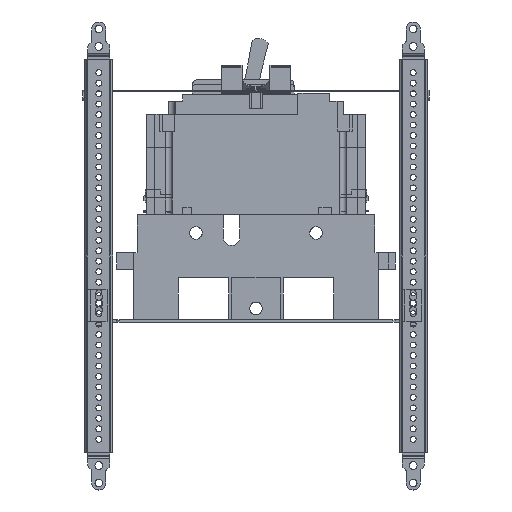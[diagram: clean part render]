
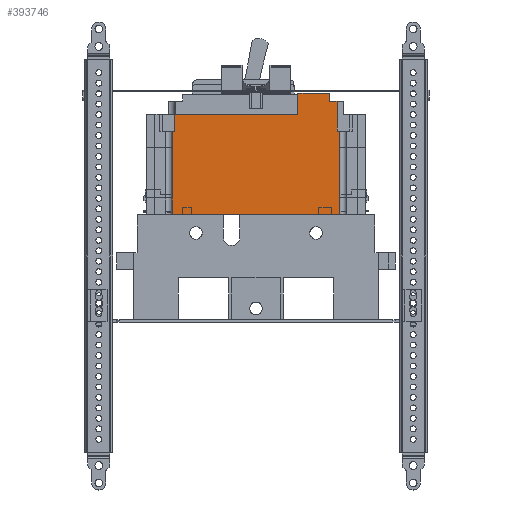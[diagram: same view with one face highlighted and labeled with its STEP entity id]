
A CAD part, left-side view. The second image highlights one B-rep face of the part: STEP entity #393746.
In plain terms, the highlighted planar face has unit normal (-1, 0, 0).
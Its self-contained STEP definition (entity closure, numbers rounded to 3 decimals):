
#384756=CARTESIAN_POINT(' ',(-266.811,61.043,81.204));
#384757=VERTEX_POINT(' ',#384756);
#384771=CARTESIAN_POINT(' ',(-266.811,-26.984,81.204));
#384776=DIRECTION(' ',(0.,1.,0.));
#384781=VECTOR(' ',#384776,1.);
#384786=LINE('',#384771,#384781);
#384791=CARTESIAN_POINT(' ',(-266.811,-26.984,81.204));
#384792=VERTEX_POINT(' ',#384791);
#384796=EDGE_CURVE(' ',#384792,#384757,#384786,.T.);
#385826=CARTESIAN_POINT(' ',(-266.811,-53.177,9.353));
#385827=VERTEX_POINT(' ',#385826);
#385841=CARTESIAN_POINT(' ',(-266.811,-53.177,9.353));
#385846=DIRECTION(' ',(0.,1.,0.));
#385851=VECTOR(' ',#385846,1.);
#385856=LINE('',#385841,#385851);
#385861=CARTESIAN_POINT(' ',(-266.811,59.243,9.353));
#385862=VERTEX_POINT(' ',#385861);
#385866=EDGE_CURVE(' ',#385827,#385862,#385856,.T.);
#393186=CARTESIAN_POINT(' ',(-266.811,61.043,68.904));
#393187=VERTEX_POINT(' ',#393186);
#393201=CARTESIAN_POINT(' ',(-266.811,61.043,81.204));
#393206=DIRECTION(' ',(0.,0.,-1.));
#393211=VECTOR(' ',#393206,1.);
#393216=LINE('',#393201,#393211);
#393221=EDGE_CURVE(' ',#384757,#393187,#393216,.T.);
#393251=DIRECTION(' ',(-1.,0.,0.));
#393256=CARTESIAN_POINT(' ',(-266.811,-56.879,9.353));
#393261=DIRECTION(' ',(0.,-0.,1.));
#393266=AXIS2_PLACEMENT_3D(' ',#393256,#393251,#393261);
#393271=PLANE('NONE',#393266);
#393276=CARTESIAN_POINT(' ',(-266.811,-56.879,69.284));
#393281=DIRECTION(' ',(0.,0.,-1.));
#393286=VECTOR(' ',#393281,1.);
#393291=LINE('',#393276,#393286);
#393296=CARTESIAN_POINT(' ',(-266.811,-56.879,69.284));
#393297=VERTEX_POINT(' ',#393296);
#393301=CARTESIAN_POINT(' ',(-266.811,-56.879,9.853));
#393302=VERTEX_POINT(' ',#393301);
#393306=EDGE_CURVE(' ',#393297,#393302,#393291,.T.);
#393311=ORIENTED_EDGE(' ',*,*,#393306,.F.);
#393316=CARTESIAN_POINT(' ',(-266.811,-54.979,69.284));
#393321=DIRECTION(' ',(0.,-1.,0.));
#393326=VECTOR(' ',#393321,1.);
#393331=LINE('',#393316,#393326);
#393336=CARTESIAN_POINT(' ',(-266.811,-54.979,69.284));
#393337=VERTEX_POINT(' ',#393336);
#393341=EDGE_CURVE(' ',#393337,#393297,#393331,.T.);
#393346=ORIENTED_EDGE(' ',*,*,#393341,.F.);
#393351=CARTESIAN_POINT(' ',(-266.811,-54.979,90.494));
#393356=DIRECTION(' ',(0.,0.,-1.));
#393361=VECTOR(' ',#393356,1.);
#393366=LINE('',#393351,#393361);
#393371=CARTESIAN_POINT(' ',(-266.811,-54.979,90.494));
#393372=VERTEX_POINT(' ',#393371);
#393376=EDGE_CURVE(' ',#393372,#393337,#393366,.T.);
#393381=ORIENTED_EDGE(' ',*,*,#393376,.F.);
#393386=CARTESIAN_POINT(' ',(-266.811,-49.482,90.494));
#393391=DIRECTION(' ',(0.,-1.,0.));
#393396=VECTOR(' ',#393391,1.);
#393401=LINE('',#393386,#393396);
#393406=CARTESIAN_POINT(' ',(-266.811,-49.482,90.494));
#393407=VERTEX_POINT(' ',#393406);
#393411=EDGE_CURVE(' ',#393407,#393372,#393401,.T.);
#393416=ORIENTED_EDGE(' ',*,*,#393411,.F.);
#393421=CARTESIAN_POINT(' ',(-266.811,-49.482,96.344));
#393426=DIRECTION(' ',(0.,0.,-1.));
#393431=VECTOR(' ',#393426,1.);
#393436=LINE('',#393421,#393431);
#393441=CARTESIAN_POINT(' ',(-266.811,-49.482,96.344));
#393442=VERTEX_POINT(' ',#393441);
#393446=EDGE_CURVE(' ',#393442,#393407,#393436,.T.);
#393451=ORIENTED_EDGE(' ',*,*,#393446,.F.);
#393456=CARTESIAN_POINT(' ',(-266.811,-26.984,96.344));
#393461=DIRECTION(' ',(0.,-1.,0.));
#393466=VECTOR(' ',#393461,1.);
#393471=LINE('',#393456,#393466);
#393476=CARTESIAN_POINT(' ',(-266.811,-26.984,96.344));
#393477=VERTEX_POINT(' ',#393476);
#393481=EDGE_CURVE(' ',#393477,#393442,#393471,.T.);
#393486=ORIENTED_EDGE(' ',*,*,#393481,.F.);
#393491=CARTESIAN_POINT(' ',(-266.811,-26.984,96.344));
#393496=DIRECTION(' ',(0.,0.,-1.));
#393501=VECTOR(' ',#393496,1.);
#393506=LINE('',#393491,#393501);
#393511=EDGE_CURVE(' ',#393477,#384792,#393506,.T.);
#393516=ORIENTED_EDGE(' ',*,*,#393511,.T.);
#393521=ORIENTED_EDGE(' ',*,*,#384796,.T.);
#393526=ORIENTED_EDGE(' ',*,*,#393221,.T.);
#393531=CARTESIAN_POINT(' ',(-266.811,61.043,68.904));
#393536=DIRECTION(' ',(0.,1.,0.));
#393541=VECTOR(' ',#393536,1.);
#393546=LINE('',#393531,#393541);
#393551=CARTESIAN_POINT(' ',(-266.811,62.945,68.904));
#393552=VERTEX_POINT(' ',#393551);
#393556=EDGE_CURVE(' ',#393187,#393552,#393546,.T.);
#393561=ORIENTED_EDGE(' ',*,*,#393556,.T.);
#393566=CARTESIAN_POINT(' ',(-266.811,62.945,9.853));
#393571=DIRECTION(' ',(0.,0.,1.));
#393576=VECTOR(' ',#393571,1.);
#393581=LINE('',#393566,#393576);
#393586=CARTESIAN_POINT(' ',(-266.811,62.945,9.853));
#393587=VERTEX_POINT(' ',#393586);
#393591=EDGE_CURVE(' ',#393587,#393552,#393581,.T.);
#393596=ORIENTED_EDGE(' ',*,*,#393591,.F.);
#393601=CARTESIAN_POINT(' ',(-266.811,62.945,9.853));
#393606=DIRECTION(' ',(0.,-1.,0.));
#393611=VECTOR(' ',#393606,1.);
#393616=LINE('',#393601,#393611);
#393621=CARTESIAN_POINT(' ',(-266.811,59.243,9.853));
#393622=VERTEX_POINT(' ',#393621);
#393626=EDGE_CURVE(' ',#393587,#393622,#393616,.T.);
#393631=ORIENTED_EDGE(' ',*,*,#393626,.T.);
#393636=CARTESIAN_POINT(' ',(-266.811,59.243,9.353));
#393641=DIRECTION(' ',(0.,0.,1.));
#393646=VECTOR(' ',#393641,1.);
#393651=LINE('',#393636,#393646);
#393656=EDGE_CURVE(' ',#385862,#393622,#393651,.T.);
#393661=ORIENTED_EDGE(' ',*,*,#393656,.F.);
#393666=ORIENTED_EDGE(' ',*,*,#385866,.F.);
#393671=CARTESIAN_POINT(' ',(-266.811,-53.177,9.353));
#393676=DIRECTION(' ',(0.,0.,1.));
#393681=VECTOR(' ',#393676,1.);
#393686=LINE('',#393671,#393681);
#393691=CARTESIAN_POINT(' ',(-266.811,-53.177,9.853));
#393692=VERTEX_POINT(' ',#393691);
#393696=EDGE_CURVE(' ',#385827,#393692,#393686,.T.);
#393701=ORIENTED_EDGE(' ',*,*,#393696,.T.);
#393706=CARTESIAN_POINT(' ',(-266.811,-56.879,9.853));
#393711=DIRECTION(' ',(0.,1.,0.));
#393716=VECTOR(' ',#393711,1.);
#393721=LINE('',#393706,#393716);
#393726=EDGE_CURVE(' ',#393302,#393692,#393721,.T.);
#393731=ORIENTED_EDGE(' ',*,*,#393726,.F.);
#393736=EDGE_LOOP(' ',(#393311,#393346,#393381,#393416,#393451,#393486,#393516,#393521,#393526,#393561,#393596,#393631,#393661,#393666,#393701,#393731));
#393741=FACE_OUTER_BOUND(' ',#393736,.T.);
#393746=ADVANCED_FACE('NONE',(#393741),#393271,.T.);
